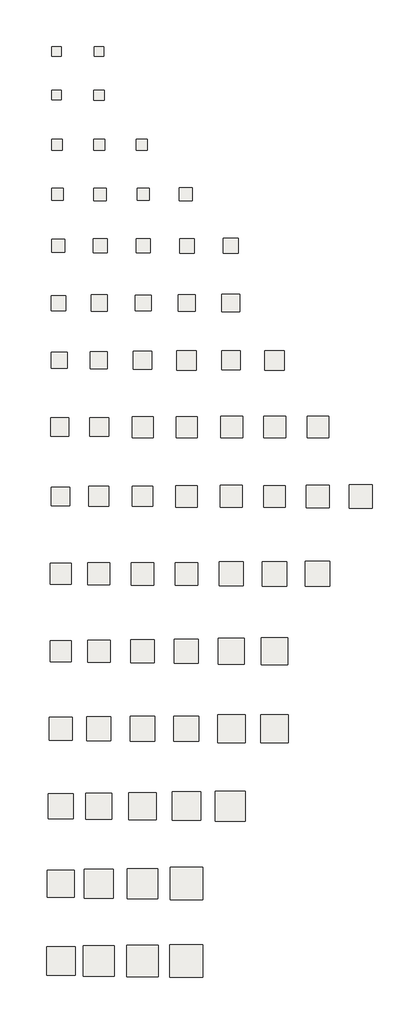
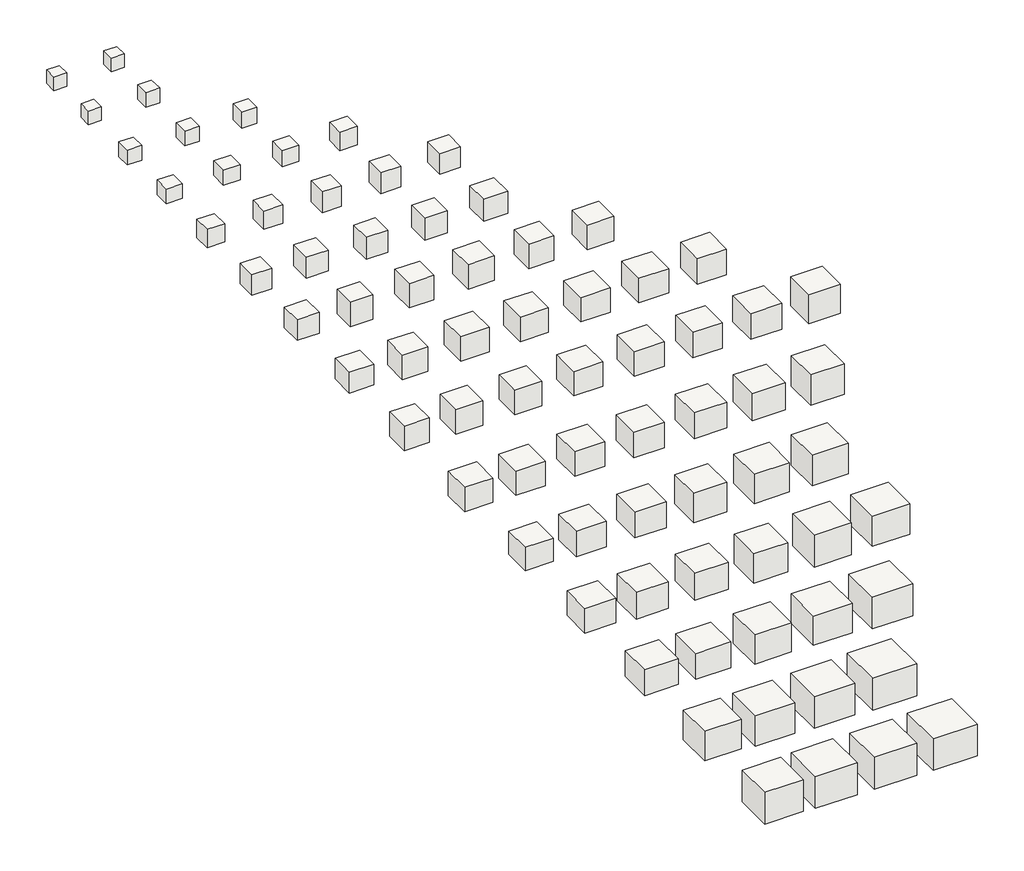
# One storey: 74 slabs.
"""IFC4 building model written with IfcOpenShell, lengths in millimetres."""

from ifc_helpers import new_model, si_unit, frame, origin, place, context, project, spatial, polyline, outline, extrude, transform, mapped, element, save
from components import sp151h_05a4cf6c, sp172h_eb2fc9ff, sp201h_40aa0069, sp202h_64a20f4a, sp203h_214d91b7, sp251h_73d5eac0, sp252h_80b67837, sp253h_21547eb5, sp254h_342b2ffc, sp302h_24c720b1, sp303h_aef286e8, sp304h_1c79e197, sp305h_9777ce12, sp351h_d71c6902, sp352h_d6b55bf2, sp353h_86609485, sp354h_4fb15817, sp355h_42aa3880, sp402h_d799182d, sp403h_6269cbd8, sp404h_84e5b0d5, sp451h_7c441174, sp452h_bbb9569a, sp453h_dc423d0a, sp455h_c88f138c, sp456h_6177a426, sp457h_512797bb, sp601h_9517f7fc, sp651h_9057769a, sp701h_4ba59a25, sp751h_83db5c08, sp801h_8423388f

model = new_model("IFC4")

# Units and contexts
model_context = context("Model", 3, world=origin())
ifc_project = project(units=[si_unit("LENGTHUNIT", "METRE", prefix="MILLI")], contexts=[model_context])

# Site, building, storey
site = spatial("IfcSite", under=ifc_project)
building = spatial("IfcBuilding", under=site)
storey = spatial("IfcBuildingStorey", under=building, Name="レベル 1", Elevation=0.0)

# Slabs
placement = place(None, origin())
sp151h_shape = sp151h_05a4cf6c(model_context)
element("IfcSlab", 1, ObjectType="柱形_SP : SP151H", at=placement, inside=storey, context=model_context, shape_type="MappedRepresentation", body=[
    mapped(sp151h_shape, transform((-18374.1210172, 22289.5887732, 0.0), x_axis=(1.0, 0.0, 0.0), y_axis=(0.0, 1.0, 0.0), z_axis=(0.0, 0.0, 1.0))),
])
element("IfcSlab", 2, ObjectType="柱形_SP : SP152H", at=placement, inside=storey, context=model_context, shape_type="MappedRepresentation", body=[
    mapped(sp151h_shape, transform((-16150.7168251, 22289.5887732, 0.0), x_axis=(1.0, 0.0, 0.0), y_axis=(0.0, 1.0, 0.0), z_axis=(0.0, 0.0, 1.0))),
])
element("IfcSlab", 3, ObjectType="柱形_SP : SP171H", at=placement, inside=storey, context=model_context, shape_type="MappedRepresentation", body=[
    mapped(sp151h_shape, transform((-18364.1210172, 19989.5887732, 0.0), x_axis=(1.0, 0.0, 0.0), y_axis=(0.0, 1.0, 0.0), z_axis=(0.0, 0.0, 1.0))),
])
sp172h_shape = sp172h_eb2fc9ff(model_context)
element("IfcSlab", 4, ObjectType="柱形_SP : SP172H", at=placement, inside=storey, context=model_context, shape_type="MappedRepresentation", body=[
    mapped(sp172h_shape, transform((-16140.7168251, 19989.5887732, 0.0), x_axis=(1.0, 0.0, 0.0), y_axis=(0.0, 1.0, 0.0), z_axis=(0.0, 0.0, 1.0))),
])
sp201h_shape = sp201h_40aa0069(model_context)
element("IfcSlab", 5, ObjectType="柱形_SP : SP201H", at=placement, inside=storey, context=model_context, shape_type="MappedRepresentation", body=[
    mapped(sp201h_shape, transform((-18349.1210172, 17389.5887732, 0.0), x_axis=(1.0, 0.0, 0.0), y_axis=(0.0, 1.0, 0.0), z_axis=(0.0, 0.0, 1.0))),
])
sp202h_shape = sp202h_64a20f4a(model_context)
element("IfcSlab", 6, ObjectType="柱形_SP : SP202H", at=placement, inside=storey, context=model_context, shape_type="MappedRepresentation", body=[
    mapped(sp202h_shape, transform((-16125.7168251, 17389.5887732, 0.0), x_axis=(1.0, 0.0, 0.0), y_axis=(0.0, 1.0, 0.0), z_axis=(0.0, 0.0, 1.0))),
])
sp203h_shape = sp203h_214d91b7(model_context)
element("IfcSlab", 7, ObjectType="柱形_SP : SP203H", at=placement, inside=storey, context=model_context, shape_type="MappedRepresentation", body=[
    mapped(sp203h_shape, transform((-13902.3126329, 17389.5887732, 0.0), x_axis=(1.0, 0.0, 0.0), y_axis=(0.0, 1.0, 0.0), z_axis=(0.0, 0.0, 1.0))),
])
sp251h_shape = sp251h_73d5eac0(model_context)
element("IfcSlab", 8, ObjectType="柱形_SP : SP251H", at=placement, inside=storey, context=model_context, shape_type="MappedRepresentation", body=[
    mapped(sp251h_shape, transform((-18324.1210172, 14789.5887732, 0.0), x_axis=(1.0, 0.0, 0.0), y_axis=(0.0, 1.0, 0.0), z_axis=(0.0, 0.0, 1.0))),
])
sp252h_shape = sp252h_80b67837(model_context)
element("IfcSlab", 9, ObjectType="柱形_SP : SP252H", at=placement, inside=storey, context=model_context, shape_type="MappedRepresentation", body=[
    mapped(sp252h_shape, transform((-16100.7168251, 14789.5887732, 0.0), x_axis=(1.0, 0.0, 0.0), y_axis=(0.0, 1.0, 0.0), z_axis=(0.0, 0.0, 1.0))),
])
sp253h_shape = sp253h_21547eb5(model_context)
element("IfcSlab", 10, ObjectType="柱形_SP : SP253H", at=placement, inside=storey, context=model_context, shape_type="MappedRepresentation", body=[
    mapped(sp253h_shape, transform((-13817.3126329, 14789.5887732, 0.0), x_axis=(1.0, 0.0, 0.0), y_axis=(0.0, 1.0, 0.0), z_axis=(0.0, 0.0, 1.0))),
])
sp254h_shape = sp254h_342b2ffc(model_context)
element("IfcSlab", 11, ObjectType="柱形_SP : SP254H", at=placement, inside=storey, context=model_context, shape_type="MappedRepresentation", body=[
    mapped(sp254h_shape, transform((-11583.9084407, 14789.5887732, 0.0), x_axis=(1.0, 0.0, 0.0), y_axis=(0.0, 1.0, 0.0), z_axis=(0.0, 0.0, 1.0))),
])
element("IfcSlab", 12, ObjectType="柱形_SP : SP301H", at=placement, inside=storey, context=model_context, shape_type="MappedRepresentation", body=[
    mapped(sp254h_shape, transform((-18289.1210172, 12089.5887732, 0.0), x_axis=(1.0, 0.0, 0.0), y_axis=(0.0, 1.0, 0.0), z_axis=(0.0, 0.0, 1.0))),
])
sp302h_shape = sp302h_24c720b1(model_context)
element("IfcSlab", 13, ObjectType="柱形_SP : SP302H", at=placement, inside=storey, context=model_context, shape_type="MappedRepresentation", body=[
    mapped(sp302h_shape, transform((-16070.7168251, 12089.5887732, 0.0), x_axis=(1.0, 0.0, 0.0), y_axis=(0.0, 1.0, 0.0), z_axis=(0.0, 0.0, 1.0))),
])
sp303h_shape = sp303h_aef286e8(model_context)
element("IfcSlab", 14, ObjectType="柱形_SP : SP303H", at=placement, inside=storey, context=model_context, shape_type="MappedRepresentation", body=[
    mapped(sp303h_shape, transform((-13817.3126329, 12089.5887732, 0.0), x_axis=(1.0, 0.0, 0.0), y_axis=(0.0, 1.0, 0.0), z_axis=(0.0, 0.0, 1.0))),
])
sp304h_shape = sp304h_1c79e197(model_context)
element("IfcSlab", 15, ObjectType="柱形_SP : SP304H", at=placement, inside=storey, context=model_context, shape_type="MappedRepresentation", body=[
    mapped(sp304h_shape, transform((-11536.4084407, 12089.5887732, 0.0), x_axis=(1.0, 0.0, 0.0), y_axis=(0.0, 1.0, 0.0), z_axis=(0.0, 0.0, 1.0))),
])
sp305h_shape = sp305h_9777ce12(model_context)
element("IfcSlab", 16, ObjectType="柱形_SP : SP305H", at=placement, inside=storey, context=model_context, shape_type="MappedRepresentation", body=[
    mapped(sp305h_shape, transform((-9236.4084407, 12089.5887732, 0.0), x_axis=(1.0, 0.0, 0.0), y_axis=(0.0, 1.0, 0.0), z_axis=(0.0, 0.0, 1.0))),
])
sp351h_shape = sp351h_d71c6902(model_context)
element("IfcSlab", 17, ObjectType="柱形_SP : SP351H", at=placement, inside=storey, context=model_context, shape_type="MappedRepresentation", body=[
    mapped(sp351h_shape, transform((-18264.1210172, 9089.5887732, 0.0), x_axis=(1.0, 0.0, 0.0), y_axis=(0.0, 1.0, 0.0), z_axis=(0.0, 0.0, 1.0))),
])
sp352h_shape = sp352h_d6b55bf2(model_context)
element("IfcSlab", 18, ObjectType="柱形_SP : SP352H", at=placement, inside=storey, context=model_context, shape_type="MappedRepresentation", body=[
    mapped(sp352h_shape, transform((-16130.7168251, 9089.5887732, 0.0), x_axis=(1.0, 0.0, 0.0), y_axis=(0.0, 1.0, 0.0), z_axis=(0.0, 0.0, 1.0))),
])
sp353h_shape = sp353h_86609485(model_context)
element("IfcSlab", 19, ObjectType="柱形_SP : SP353H", at=placement, inside=storey, context=model_context, shape_type="MappedRepresentation", body=[
    mapped(sp353h_shape, transform((-13817.3126329, 9089.5887732, 0.0), x_axis=(1.0, 0.0, 0.0), y_axis=(0.0, 1.0, 0.0), z_axis=(0.0, 0.0, 1.0))),
])
sp354h_shape = sp354h_4fb15817(model_context)
element("IfcSlab", 20, ObjectType="柱形_SP : SP354H", at=placement, inside=storey, context=model_context, shape_type="MappedRepresentation", body=[
    mapped(sp354h_shape, transform((-11536.4084407, 9089.5887732, 0.0), x_axis=(1.0, 0.0, 0.0), y_axis=(0.0, 1.0, 0.0), z_axis=(0.0, 0.0, 1.0))),
])
sp355h_shape = sp355h_42aa3880(model_context)
element("IfcSlab", 21, ObjectType="柱形_SP : SP355H", at=placement, inside=storey, context=model_context, shape_type="MappedRepresentation", body=[
    mapped(sp355h_shape, transform((-9236.4084407, 9089.5887732, 0.0), x_axis=(1.0, 0.0, 0.0), y_axis=(0.0, 1.0, 0.0), z_axis=(0.0, 0.0, 1.0))),
])
element("IfcSlab", 22, ObjectType="柱形_SP : SP401H", at=placement, inside=storey, context=model_context, shape_type="SweptSolid", body=[
    extrude(outline(polyline([(-17796.0106955, 6519.5887732), (-17796.0106955, 5659.5887732), (-18656.0106955, 5659.5887732), (-18656.0106955, 6519.5887732), (-17796.0106955, 6519.5887732)])), frame((0.0, 0.0, -850.0), z_axis=(0.0, 0.0, 1.0), x_axis=(1.0, 0.0, 0.0)), (0.0, 0.0, 1.0), 850.0),
])
sp402h_shape = sp402h_d799182d(model_context)
element("IfcSlab", 23, ObjectType="柱形_SP : SP402H", at=placement, inside=storey, context=model_context, shape_type="MappedRepresentation", body=[
    mapped(sp402h_shape, transform((-16159.2265438, 6089.5887732, 0.0), x_axis=(1.0, 0.0, 0.0), y_axis=(0.0, 1.0, 0.0), z_axis=(0.0, 0.0, 1.0))),
])
sp403h_shape = sp403h_6269cbd8(model_context)
element("IfcSlab", 24, ObjectType="柱形_SP : SP403H", at=placement, inside=storey, context=model_context, shape_type="MappedRepresentation", body=[
    mapped(sp403h_shape, transform((-13859.2265438, 6089.5887732, 0.0), x_axis=(1.0, 0.0, 0.0), y_axis=(0.0, 1.0, 0.0), z_axis=(0.0, 0.0, 1.0))),
])
sp404h_shape = sp404h_84e5b0d5(model_context)
element("IfcSlab", 25, ObjectType="柱形_SP : SP404H", at=placement, inside=storey, context=model_context, shape_type="MappedRepresentation", body=[
    mapped(sp404h_shape, transform((-11559.2265438, 6089.5887732, 0.0), x_axis=(1.0, 0.0, 0.0), y_axis=(0.0, 1.0, 0.0), z_axis=(0.0, 0.0, 1.0))),
])
element("IfcSlab", 26, ObjectType="柱形_SP : SP405H", at=placement, inside=storey, context=model_context, shape_type="SweptSolid", body=[
    extrude(outline(polyline([(-8729.2265438, 6579.5887732), (-8729.2265438, 5599.5887732), (-9709.2265438, 5599.5887732), (-9709.2265438, 6579.5887732), (-8729.2265438, 6579.5887732)])), frame((0.0, 0.0, -1000.0), z_axis=(0.0, 0.0, 1.0), x_axis=(1.0, 0.0, 0.0)), (0.0, 0.0, 1.0), 1000.0),
])
element("IfcSlab", 27, ObjectType="柱形_SP : SP406H", at=placement, inside=storey, context=model_context, shape_type="SweptSolid", body=[
    extrude(outline(polyline([(-6421.2999676, 6599.5887732), (-6421.2999676, 5579.5887732), (-7441.2999676, 5579.5887732), (-7441.2999676, 6599.5887732), (-6421.2999676, 6599.5887732)])), frame((0.0, 0.0, -1000.0), z_axis=(0.0, 0.0, 1.0), x_axis=(1.0, 0.0, 0.0)), (0.0, 0.0, 1.0), 1000.0),
])
sp451h_shape = sp451h_7c441174(model_context)
element("IfcSlab", 28, ObjectType="柱形_SP : SP451H", at=placement, inside=storey, context=model_context, shape_type="MappedRepresentation", body=[
    mapped(sp451h_shape, transform((-18199.1210172, 2589.5887732, 0.0), x_axis=(1.0, 0.0, 0.0), y_axis=(0.0, 1.0, 0.0), z_axis=(0.0, 0.0, 1.0))),
])
sp452h_shape = sp452h_bbb9569a(model_context)
element("IfcSlab", 29, ObjectType="柱形_SP : SP452H", at=placement, inside=storey, context=model_context, shape_type="MappedRepresentation", body=[
    mapped(sp452h_shape, transform((-16132.3368655, 2589.5887732, 0.0), x_axis=(1.0, 0.0, 0.0), y_axis=(0.0, 1.0, 0.0), z_axis=(0.0, 0.0, 1.0))),
])
sp453h_shape = sp453h_dc423d0a(model_context)
element("IfcSlab", 30, ObjectType="柱形_SP : SP453H", at=placement, inside=storey, context=model_context, shape_type="MappedRepresentation", body=[
    mapped(sp453h_shape, transform((-13844.2265438, 2589.5887732, 0.0), x_axis=(1.0, 0.0, 0.0), y_axis=(0.0, 1.0, 0.0), z_axis=(0.0, 0.0, 1.0))),
])
element("IfcSlab", 31, ObjectType="柱形_SP : SP454H", at=placement, inside=storey, context=model_context, shape_type="MappedRepresentation", body=[
    mapped(sp453h_shape, transform((-11544.2265438, 2589.5887732, 0.0), x_axis=(1.0, 0.0, 0.0), y_axis=(0.0, 1.0, 0.0), z_axis=(0.0, 0.0, 1.0))),
])
sp455h_shape = sp455h_c88f138c(model_context)
element("IfcSlab", 32, ObjectType="柱形_SP : SP455H", at=placement, inside=storey, context=model_context, shape_type="MappedRepresentation", body=[
    mapped(sp455h_shape, transform((-9184.2265438, 2589.5887732, 0.0), x_axis=(1.0, 0.0, 0.0), y_axis=(0.0, 1.0, 0.0), z_axis=(0.0, 0.0, 1.0))),
])
sp456h_shape = sp456h_6177a426(model_context)
element("IfcSlab", 33, ObjectType="柱形_SP : SP456H", at=placement, inside=storey, context=model_context, shape_type="MappedRepresentation", body=[
    mapped(sp456h_shape, transform((-6924.2265438, 2589.5887732, 0.0), x_axis=(1.0, 0.0, 0.0), y_axis=(0.0, 1.0, 0.0), z_axis=(0.0, 0.0, 1.0))),
])
sp457h_shape = sp457h_512797bb(model_context)
element("IfcSlab", 34, ObjectType="柱形_SP : SP457H", at=placement, inside=storey, context=model_context, shape_type="MappedRepresentation", body=[
    mapped(sp457h_shape, transform((-4664.2265438, 2589.5887732, 0.0), x_axis=(1.0, 0.0, 0.0), y_axis=(0.0, 1.0, 0.0), z_axis=(0.0, 0.0, 1.0))),
])
element("IfcSlab", 35, ObjectType="柱形_SP : SP501H", at=placement, inside=storey, context=model_context, shape_type="SweptSolid", body=[
    extrude(outline(polyline([(-17689.1210172, -565.4112268), (-17689.1210172, -1535.4112268), (-18659.1210172, -1535.4112268), (-18659.1210172, -565.4112268), (-17689.1210172, -565.4112268)])), frame((0.0, 0.0, -1000.0), z_axis=(0.0, 0.0, 1.0), x_axis=(1.0, 0.0, 0.0)), (0.0, 0.0, 1.0), 1000.0),
])
element("IfcSlab", 36, ObjectType="柱形_SP : SP502H", at=placement, inside=storey, context=model_context, shape_type="SweptSolid", body=[
    extrude(outline(polyline([(-15625.8055027, -525.4112268), (-15625.8055027, -1575.4112268), (-16675.8055027, -1575.4112268), (-16675.8055027, -525.4112268), (-15625.8055027, -525.4112268)])), frame((0.0, 0.0, -1000.0), z_axis=(0.0, 0.0, 1.0), x_axis=(1.0, 0.0, 0.0)), (0.0, 0.0, 1.0), 1000.0),
])
element("IfcSlab", 37, ObjectType="柱形_SP : SP503H", at=placement, inside=storey, context=model_context, shape_type="SweptSolid", body=[
    extrude(outline(polyline([(-13337.695181, -525.4112268), (-13337.695181, -1575.4112268), (-14387.695181, -1575.4112268), (-14387.695181, -525.4112268), (-13337.695181, -525.4112268)])), frame((0.0, 0.0, -1000.0), z_axis=(0.0, 0.0, 1.0), x_axis=(1.0, 0.0, 0.0)), (0.0, 0.0, 1.0), 1000.0),
])
element("IfcSlab", 38, ObjectType="柱形_SP : SP504H", at=placement, inside=storey, context=model_context, shape_type="SweptSolid", body=[
    extrude(outline(polyline([(-10997.695181, -485.4112268), (-10997.695181, -1615.4112268), (-12127.695181, -1615.4112268), (-12127.695181, -485.4112268), (-10997.695181, -485.4112268)])), frame((0.0, 0.0, -1000.0), z_axis=(0.0, 0.0, 1.0), x_axis=(1.0, 0.0, 0.0)), (0.0, 0.0, 1.0), 1000.0),
])
element("IfcSlab", 39, ObjectType="柱形_SP : SP505H", at=placement, inside=storey, context=model_context, shape_type="SweptSolid", body=[
    extrude(outline(polyline([(-8627.695181, -475.4112268), (-8627.695181, -1625.4112268), (-9777.695181, -1625.4112268), (-9777.695181, -475.4112268), (-8627.695181, -475.4112268)])), frame((0.0, 0.0, -1000.0), z_axis=(0.0, 0.0, 1.0), x_axis=(1.0, 0.0, 0.0)), (0.0, 0.0, 1.0), 1000.0),
])
element("IfcSlab", 40, ObjectType="柱形_SP : SP506H", at=placement, inside=storey, context=model_context, shape_type="SweptSolid", body=[
    extrude(outline(polyline([(-6372.695181, -480.4112268), (-6372.695181, -1620.4112268), (-7512.695181, -1620.4112268), (-7512.695181, -480.4112268), (-6372.695181, -480.4112268)])), frame((0.0, 0.0, -1050.0), z_axis=(0.0, 0.0, 1.0), x_axis=(1.0, 0.0, 0.0)), (0.0, 0.0, 1.0), 1050.0),
])
element("IfcSlab", 41, ObjectType="柱形_SP : SP507H", at=placement, inside=storey, context=model_context, shape_type="SweptSolid", body=[
    extrude(outline(polyline([(-4082.695181, -450.4112268), (-4082.695181, -1650.4112268), (-5282.695181, -1650.4112268), (-5282.695181, -450.4112268), (-4082.695181, -450.4112268)])), frame((0.0, 0.0, -1050.0), z_axis=(0.0, 0.0, 1.0), x_axis=(1.0, 0.0, 0.0)), (0.0, 0.0, 1.0), 1050.0),
])
element("IfcSlab", 42, ObjectType="柱形_SP : SP508H", at=placement, inside=storey, context=model_context, shape_type="SweptSolid", body=[
    extrude(outline(polyline([(-1812.695181, -440.4112268), (-1812.695181, -1660.4112268), (-3032.695181, -1660.4112268), (-3032.695181, -440.4112268), (-1812.695181, -440.4112268)])), frame((0.0, 0.0, -1200.0), z_axis=(0.0, 0.0, 1.0), x_axis=(1.0, 0.0, 0.0)), (0.0, 0.0, 1.0), 1200.0),
])
element("IfcSlab", 43, ObjectType="柱形_SP : SP551H", at=placement, inside=storey, context=model_context, shape_type="MappedRepresentation", body=[
    mapped(sp453h_shape, transform((-18144.1210172, -5110.4112268, 0.0), x_axis=(1.0, 0.0, 0.0), y_axis=(0.0, 1.0, 0.0), z_axis=(0.0, 0.0, 1.0))),
])
element("IfcSlab", 44, ObjectType="柱形_SP : SP552H", at=placement, inside=storey, context=model_context, shape_type="SweptSolid", body=[
    extrude(outline(polyline([(-15575.8055027, -4535.4112268), (-15575.8055027, -5685.4112268), (-16725.8055027, -5685.4112268), (-16725.8055027, -4535.4112268), (-15575.8055027, -4535.4112268)])), frame((0.0, 0.0, -1000.0), z_axis=(0.0, 0.0, 1.0), x_axis=(1.0, 0.0, 0.0)), (0.0, 0.0, 1.0), 1000.0),
])
element("IfcSlab", 45, ObjectType="柱形_SP : SP553H", at=placement, inside=storey, context=model_context, shape_type="SweptSolid", body=[
    extrude(outline(polyline([(-13272.695181, -4520.4112268), (-13272.695181, -5700.4112268), (-14452.695181, -5700.4112268), (-14452.695181, -4520.4112268), (-13272.695181, -4520.4112268)])), frame((0.0, 0.0, -1000.0), z_axis=(0.0, 0.0, 1.0), x_axis=(1.0, 0.0, 0.0)), (0.0, 0.0, 1.0), 1000.0),
])
element("IfcSlab", 46, ObjectType="柱形_SP : SP554H", at=placement, inside=storey, context=model_context, shape_type="SweptSolid", body=[
    extrude(outline(polyline([(-10977.695181, -4525.4112268), (-10977.695181, -5695.4112268), (-12147.695181, -5695.4112268), (-12147.695181, -4525.4112268), (-10977.695181, -4525.4112268)])), frame((0.0, 0.0, -1050.0), z_axis=(0.0, 0.0, 1.0), x_axis=(1.0, 0.0, 0.0)), (0.0, 0.0, 1.0), 1050.0),
])
element("IfcSlab", 47, ObjectType="柱形_SP : SP555H", at=placement, inside=storey, context=model_context, shape_type="SweptSolid", body=[
    extrude(outline(polyline([(-8572.695181, -4480.4112268), (-8572.695181, -5740.4112268), (-9832.695181, -5740.4112268), (-9832.695181, -4480.4112268), (-8572.695181, -4480.4112268)])), frame((0.0, 0.0, -1050.0), z_axis=(0.0, 0.0, 1.0), x_axis=(1.0, 0.0, 0.0)), (0.0, 0.0, 1.0), 1050.0),
])
element("IfcSlab", 48, ObjectType="柱形_SP : SP556H", at=placement, inside=storey, context=model_context, shape_type="SweptSolid", body=[
    extrude(outline(polyline([(-6302.695181, -4470.4112268), (-6302.695181, -5750.4112268), (-7582.695181, -5750.4112268), (-7582.695181, -4470.4112268), (-6302.695181, -4470.4112268)])), frame((0.0, 0.0, -1100.0), z_axis=(0.0, 0.0, 1.0), x_axis=(1.0, 0.0, 0.0)), (0.0, 0.0, 1.0), 1100.0),
])
element("IfcSlab", 49, ObjectType="柱形_SP : SP557H", at=placement, inside=storey, context=model_context, shape_type="SweptSolid", body=[
    extrude(outline(polyline([(-4032.695181, -4460.4112268), (-4032.695181, -5760.4112268), (-5332.695181, -5760.4112268), (-5332.695181, -4460.4112268), (-4032.695181, -4460.4112268)])), frame((0.0, 0.0, -1250.0), z_axis=(0.0, 0.0, 1.0), x_axis=(1.0, 0.0, 0.0)), (0.0, 0.0, 1.0), 1250.0),
])
sp601h_shape = sp601h_9517f7fc(model_context)
element("IfcSlab", 50, ObjectType="柱形_SP : SP601H", at=placement, inside=storey, context=model_context, shape_type="MappedRepresentation", body=[
    mapped(sp601h_shape, transform((-18144.1210172, -9170.4112268, 0.0), x_axis=(1.0, 0.0, 0.0), y_axis=(0.0, 1.0, 0.0), z_axis=(0.0, 0.0, 1.0))),
])
element("IfcSlab", 51, ObjectType="柱形_SP : SP602H", at=placement, inside=storey, context=model_context, shape_type="SweptSolid", body=[
    extrude(outline(polyline([(-15565.8055027, -8585.4112268), (-15565.8055027, -9755.4112268), (-16735.8055027, -9755.4112268), (-16735.8055027, -8585.4112268), (-15565.8055027, -8585.4112268)])), frame((0.0, 0.0, -1050.0), z_axis=(0.0, 0.0, 1.0), x_axis=(1.0, 0.0, 0.0)), (0.0, 0.0, 1.0), 1050.0),
])
element("IfcSlab", 52, ObjectType="柱形_SP : SP603H", at=placement, inside=storey, context=model_context, shape_type="SweptSolid", body=[
    extrude(outline(polyline([(-13252.695181, -8560.4112268), (-13252.695181, -9780.4112268), (-14472.695181, -9780.4112268), (-14472.695181, -8560.4112268), (-13252.695181, -8560.4112268)])), frame((0.0, 0.0, -1050.0), z_axis=(0.0, 0.0, 1.0), x_axis=(1.0, 0.0, 0.0)), (0.0, 0.0, 1.0), 1050.0),
])
element("IfcSlab", 53, ObjectType="柱形_SP : SP604H", at=placement, inside=storey, context=model_context, shape_type="SweptSolid", body=[
    extrude(outline(polyline([(-10927.695181, -8535.4112268), (-10927.695181, -9805.4112268), (-12197.695181, -9805.4112268), (-12197.695181, -8535.4112268), (-10927.695181, -8535.4112268)])), frame((0.0, 0.0, -1200.0), z_axis=(0.0, 0.0, 1.0), x_axis=(1.0, 0.0, 0.0)), (0.0, 0.0, 1.0), 1200.0),
])
element("IfcSlab", 54, ObjectType="柱形_SP : SP605H", at=placement, inside=storey, context=model_context, shape_type="SweptSolid", body=[
    extrude(outline(polyline([(-8517.695181, -8485.4112268), (-8517.695181, -9855.4112268), (-9887.695181, -9855.4112268), (-9887.695181, -8485.4112268), (-8517.695181, -8485.4112268)])), frame((0.0, 0.0, -1200.0), z_axis=(0.0, 0.0, 1.0), x_axis=(1.0, 0.0, 0.0)), (0.0, 0.0, 1.0), 1200.0),
])
element("IfcSlab", 55, ObjectType="柱形_SP : SP606H", at=placement, inside=storey, context=model_context, shape_type="SweptSolid", body=[
    extrude(outline(polyline([(-6242.695181, -8470.4112268), (-6242.695181, -9870.4112268), (-7642.695181, -9870.4112268), (-7642.695181, -8470.4112268), (-6242.695181, -8470.4112268)])), frame((0.0, 0.0, -1250.0), z_axis=(0.0, 0.0, 1.0), x_axis=(1.0, 0.0, 0.0)), (0.0, 0.0, 1.0), 1250.0),
])
sp651h_shape = sp651h_9057769a(model_context)
element("IfcSlab", 56, ObjectType="柱形_SP : SP651H", at=placement, inside=storey, context=model_context, shape_type="MappedRepresentation", body=[
    mapped(sp651h_shape, transform((-18144.1210172, -13230.4112268, 0.0), x_axis=(1.0, 0.0, 0.0), y_axis=(0.0, 1.0, 0.0), z_axis=(0.0, 0.0, 1.0))),
])
element("IfcSlab", 57, ObjectType="柱形_SP : SP652H", at=placement, inside=storey, context=model_context, shape_type="SweptSolid", body=[
    extrude(outline(polyline([(-15525.8055027, -12605.4112268), (-15525.8055027, -13855.4112268), (-16775.8055027, -13855.4112268), (-16775.8055027, -12605.4112268), (-15525.8055027, -12605.4112268)])), frame((0.0, 0.0, -1100.0), z_axis=(0.0, 0.0, 1.0), x_axis=(1.0, 0.0, 0.0)), (0.0, 0.0, 1.0), 1100.0),
])
element("IfcSlab", 58, ObjectType="柱形_SP : SP653H", at=placement, inside=storey, context=model_context, shape_type="SweptSolid", body=[
    extrude(outline(polyline([(-13212.695181, -12580.4112268), (-13212.695181, -13880.4112268), (-14512.695181, -13880.4112268), (-14512.695181, -12580.4112268), (-13212.695181, -12580.4112268)])), frame((0.0, 0.0, -1100.0), z_axis=(0.0, 0.0, 1.0), x_axis=(1.0, 0.0, 0.0)), (0.0, 0.0, 1.0), 1100.0),
])
element("IfcSlab", 59, ObjectType="柱形_SP : SP654H", at=placement, inside=storey, context=model_context, shape_type="SweptSolid", body=[
    extrude(outline(polyline([(-10902.695181, -12570.4112268), (-10902.695181, -13890.4112268), (-12222.695181, -13890.4112268), (-12222.695181, -12570.4112268), (-10902.695181, -12570.4112268)])), frame((0.0, 0.0, -1200.0), z_axis=(0.0, 0.0, 1.0), x_axis=(1.0, 0.0, 0.0)), (0.0, 0.0, 1.0), 1200.0),
])
element("IfcSlab", 60, ObjectType="柱形_SP : SP655H", at=placement, inside=storey, context=model_context, shape_type="SweptSolid", body=[
    extrude(outline(polyline([(-8477.695181, -12505.4112268), (-8477.695181, -13955.4112268), (-9927.695181, -13955.4112268), (-9927.695181, -12505.4112268), (-8477.695181, -12505.4112268)])), frame((0.0, 0.0, -1300.0), z_axis=(0.0, 0.0, 1.0), x_axis=(1.0, 0.0, 0.0)), (0.0, 0.0, 1.0), 1300.0),
])
element("IfcSlab", 61, ObjectType="柱形_SP : SP656H", at=placement, inside=storey, context=model_context, shape_type="SweptSolid", body=[
    extrude(outline(polyline([(-6217.695181, -12505.4112268), (-6217.695181, -13955.4112268), (-7667.695181, -13955.4112268), (-7667.695181, -12505.4112268), (-6217.695181, -12505.4112268)])), frame((0.0, 0.0, -1250.0), z_axis=(0.0, 0.0, 1.0), x_axis=(1.0, 0.0, 0.0)), (0.0, 0.0, 1.0), 1250.0),
])
sp701h_shape = sp701h_4ba59a25(model_context)
element("IfcSlab", 62, ObjectType="柱形_SP : SP701H", at=placement, inside=storey, context=model_context, shape_type="MappedRepresentation", body=[
    mapped(sp701h_shape, transform((-18144.1210172, -17290.4112268, 0.0), x_axis=(1.0, 0.0, 0.0), y_axis=(0.0, 1.0, 0.0), z_axis=(0.0, 0.0, 1.0))),
])
element("IfcSlab", 63, ObjectType="柱形_SP : SP702H", at=placement, inside=storey, context=model_context, shape_type="SweptSolid", body=[
    extrude(outline(polyline([(-15475.8055027, -16615.4112268), (-15475.8055027, -17965.4112268), (-16825.8055027, -17965.4112268), (-16825.8055027, -16615.4112268), (-15475.8055027, -16615.4112268)])), frame((0.0, 0.0, -1050.0), z_axis=(0.0, 0.0, 1.0), x_axis=(1.0, 0.0, 0.0)), (0.0, 0.0, 1.0), 1050.0),
])
element("IfcSlab", 64, ObjectType="柱形_SP : SP703H", at=placement, inside=storey, context=model_context, shape_type="SweptSolid", body=[
    extrude(outline(polyline([(-13152.695181, -16580.4112268), (-13152.695181, -18000.4112268), (-14572.695181, -18000.4112268), (-14572.695181, -16580.4112268), (-13152.695181, -16580.4112268)])), frame((0.0, 0.0, -1200.0), z_axis=(0.0, 0.0, 1.0), x_axis=(1.0, 0.0, 0.0)), (0.0, 0.0, 1.0), 1200.0),
])
element("IfcSlab", 65, ObjectType="柱形_SP : SP704H", at=placement, inside=storey, context=model_context, shape_type="SweptSolid", body=[
    extrude(outline(polyline([(-10812.695181, -16540.4112268), (-10812.695181, -18040.4112268), (-12312.695181, -18040.4112268), (-12312.695181, -16540.4112268), (-10812.695181, -16540.4112268)])), frame((0.0, 0.0, -1200.0), z_axis=(0.0, 0.0, 1.0), x_axis=(1.0, 0.0, 0.0)), (0.0, 0.0, 1.0), 1200.0),
])
element("IfcSlab", 66, ObjectType="柱形_SP : SP705H", at=placement, inside=storey, context=model_context, shape_type="SweptSolid", body=[
    extrude(outline(polyline([(-8477.695181, -16505.4112268), (-8477.695181, -18075.4112268), (-10047.695181, -18075.4112268), (-10047.695181, -16505.4112268), (-8477.695181, -16505.4112268)])), frame((0.0, 0.0, -1300.0), z_axis=(0.0, 0.0, 1.0), x_axis=(1.0, 0.0, 0.0)), (0.0, 0.0, 1.0), 1300.0),
])
sp751h_shape = sp751h_83db5c08(model_context)
element("IfcSlab", 67, ObjectType="柱形_SP : SP751H", at=placement, inside=storey, context=model_context, shape_type="MappedRepresentation", body=[
    mapped(sp751h_shape, transform((-18144.1210172, -21350.4112268, 0.0), x_axis=(1.0, 0.0, 0.0), y_axis=(0.0, 1.0, 0.0), z_axis=(0.0, 0.0, 1.0))),
])
element("IfcSlab", 68, ObjectType="柱形_SP : SP752H", at=placement, inside=storey, context=model_context, shape_type="SweptSolid", body=[
    extrude(outline(polyline([(-15390.8055027, -20590.4112268), (-15390.8055027, -22110.4112268), (-16910.8055027, -22110.4112268), (-16910.8055027, -20590.4112268), (-15390.8055027, -20590.4112268)])), frame((0.0, 0.0, -1250.0), z_axis=(0.0, 0.0, 1.0), x_axis=(1.0, 0.0, 0.0)), (0.0, 0.0, 1.0), 1250.0),
])
element("IfcSlab", 69, ObjectType="柱形_SP : SP753H", at=placement, inside=storey, context=model_context, shape_type="SweptSolid", body=[
    extrude(outline(polyline([(-13072.695181, -20560.4112268), (-13072.695181, -22140.4112268), (-14652.695181, -22140.4112268), (-14652.695181, -20560.4112268), (-13072.695181, -20560.4112268)])), frame((0.0, 0.0, -1300.0), z_axis=(0.0, 0.0, 1.0), x_axis=(1.0, 0.0, 0.0)), (0.0, 0.0, 1.0), 1300.0),
])
element("IfcSlab", 70, ObjectType="柱形_SP : SP754H", at=placement, inside=storey, context=model_context, shape_type="SweptSolid", body=[
    extrude(outline(polyline([(-10712.695181, -20500.4112268), (-10712.695181, -22200.4112268), (-12412.695181, -22200.4112268), (-12412.695181, -20500.4112268), (-10712.695181, -20500.4112268)])), frame((0.0, 0.0, -1300.0), z_axis=(0.0, 0.0, 1.0), x_axis=(1.0, 0.0, 0.0)), (0.0, 0.0, 1.0), 1300.0),
])
sp801h_shape = sp801h_8423388f(model_context)
element("IfcSlab", 71, ObjectType="柱形_SP : SP801H", at=placement, inside=storey, context=model_context, shape_type="MappedRepresentation", body=[
    mapped(sp801h_shape, transform((-18144.1210172, -25410.4112268, 0.0), x_axis=(1.0, 0.0, 0.0), y_axis=(0.0, 1.0, 0.0), z_axis=(0.0, 0.0, 1.0))),
])
element("IfcSlab", 72, ObjectType="柱形_SP : SP802H", at=placement, inside=storey, context=model_context, shape_type="SweptSolid", body=[
    extrude(outline(polyline([(-15340.8055027, -24600.4112268), (-15340.8055027, -26220.4112268), (-16960.8055027, -26220.4112268), (-16960.8055027, -24600.4112268), (-15340.8055027, -24600.4112268)])), frame((0.0, 0.0, -1300.0), z_axis=(0.0, 0.0, 1.0), x_axis=(1.0, 0.0, 0.0)), (0.0, 0.0, 1.0), 1300.0),
])
element("IfcSlab", 73, ObjectType="柱形_SP : SP803H", at=placement, inside=storey, context=model_context, shape_type="SweptSolid", body=[
    extrude(outline(polyline([(-13042.695181, -24590.4112268), (-13042.695181, -26230.4112268), (-14682.695181, -26230.4112268), (-14682.695181, -24590.4112268), (-13042.695181, -24590.4112268)])), frame((0.0, 0.0, -1300.0), z_axis=(0.0, 0.0, 1.0), x_axis=(1.0, 0.0, 0.0)), (0.0, 0.0, 1.0), 1300.0),
])
element("IfcSlab", 74, ObjectType="柱形_SP : SP804H", at=placement, inside=storey, context=model_context, shape_type="SweptSolid", body=[
    extrude(outline(polyline([(-10702.695181, -24550.4112268), (-10702.695181, -26270.4112268), (-12422.695181, -26270.4112268), (-12422.695181, -24550.4112268), (-10702.695181, -24550.4112268)])), frame((0.0, 0.0, -1300.0), z_axis=(0.0, 0.0, 1.0), x_axis=(1.0, 0.0, 0.0)), (0.0, 0.0, 1.0), 1300.0),
])

save(model, "model.ifc")
